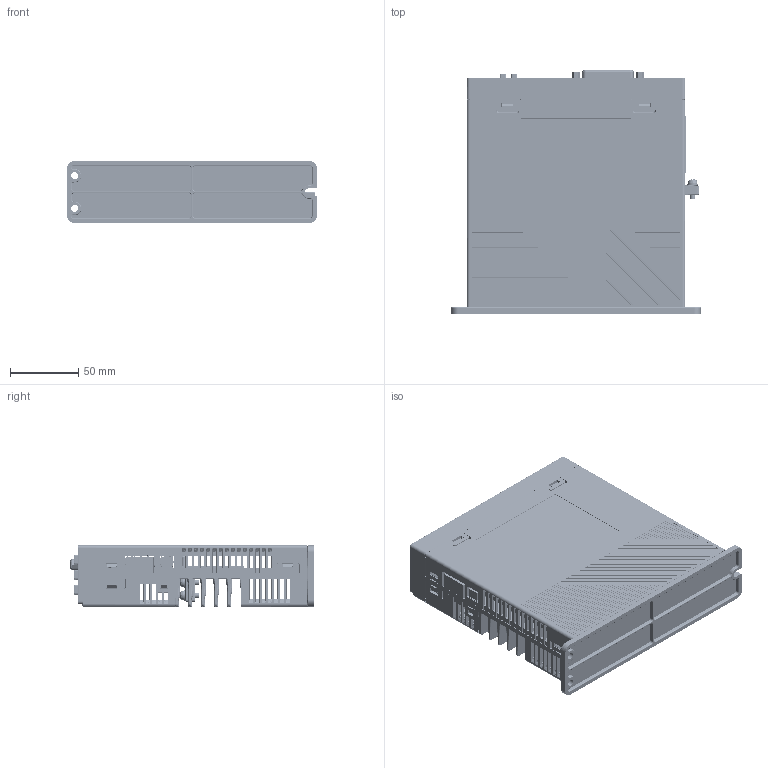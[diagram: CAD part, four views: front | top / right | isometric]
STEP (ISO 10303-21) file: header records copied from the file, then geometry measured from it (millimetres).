
FILE_DESCRIPTION((''),'2;1');
FILE_NAME('DS3P-04AS','2026-01-21T18:43:18',('wuyh130'),(''),'CREO PARAMETRIC BY PTC INC, 2021063','CREO PARAMETRIC BY PTC INC, 2021063','');
FILE_SCHEMA(('AUTOMOTIVE_DESIGN { 1 0 10303 214 1 1 1 1 }'));
Products named in the file (1): DS3P-04AS
Bounding box: 183 x 178.45 x 45 mm (x, y, z)
Surface area: 261408.2 mm2 (no closed solid volume)
Topology: 0 solids, 210 shells, 6919 faces, 23786 edges, 16692 vertices
Faces by surface type: plane 4110, cylinder 1748, bspline 342, cone 323, torus 194, extrusion 115, sphere 87
Entity records: 315126 total; most frequent: CARTESIAN_POINT 94178, ORIENTED_EDGE 40412, DIRECTION 36884, EDGE_CURVE 23694, VERTEX_POINT 16692, VECTOR 16631, LINE 16516, AXIS2_PLACEMENT_3D 10125
